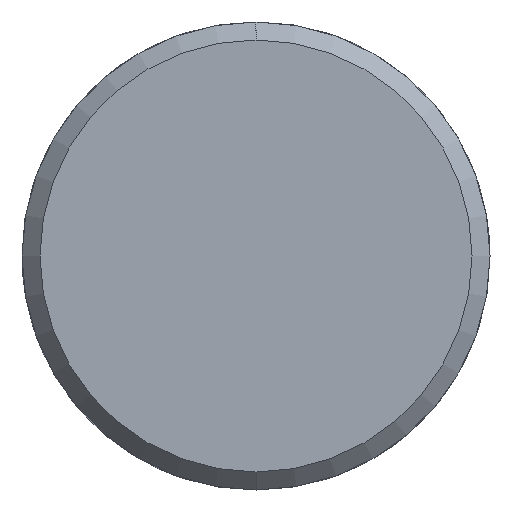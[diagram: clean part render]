
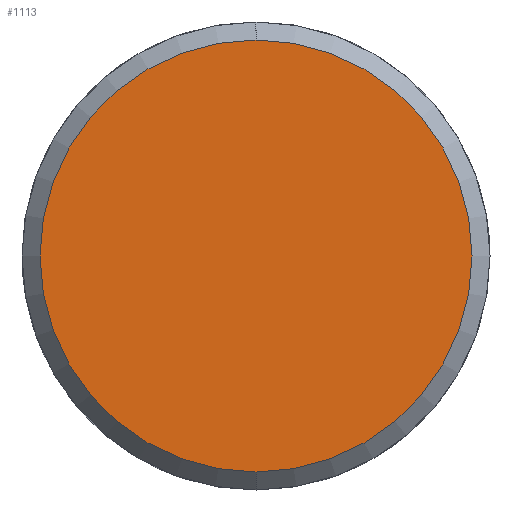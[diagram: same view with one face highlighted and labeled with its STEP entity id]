
A CAD part, left-side view. The second image highlights one B-rep face of the part: STEP entity #1113.
In plain terms, the highlighted planar face has unit normal (-1, 0, 0).
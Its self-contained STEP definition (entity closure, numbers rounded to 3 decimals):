
#1045=CARTESIAN_POINT('Vertex',(-5.,0.,-12.)) ;
#1048=CARTESIAN_POINT('Axis2P3D Location',(-5.,0.,0.)) ;
#1052=CARTESIAN_POINT('Vertex',(-5.,12.,0.)) ;
#1055=CARTESIAN_POINT('Axis2P3D Location',(-5.,0.,0.)) ;
#1059=CARTESIAN_POINT('Vertex',(-5.,0.,12.)) ;
#1081=CARTESIAN_POINT('Axis2P3D Location',(-5.,0.,0.)) ;
#1085=CARTESIAN_POINT('Vertex',(-5.,-12.,0.)) ;
#1088=CARTESIAN_POINT('Axis2P3D Location',(-5.,0.,0.)) ;
#1102=CARTESIAN_POINT('Axis2P3D Location',(-5.,0.,0.)) ;
#1049=DIRECTION('Axis2P3D Direction',(1.,0.,-0.)) ;
#1056=DIRECTION('Axis2P3D Direction',(1.,0.,-0.)) ;
#1082=DIRECTION('Axis2P3D Direction',(1.,0.,-0.)) ;
#1089=DIRECTION('Axis2P3D Direction',(1.,0.,-0.)) ;
#1103=DIRECTION('Axis2P3D Direction',(1.,0.,-0.)) ;
#1104=DIRECTION('Axis2P3D XDirection',(-0.,0.,-1.)) ;
#1050=AXIS2_PLACEMENT_3D('Circle Axis2P3D',#1048,#1049,$) ;
#1057=AXIS2_PLACEMENT_3D('Circle Axis2P3D',#1055,#1056,$) ;
#1083=AXIS2_PLACEMENT_3D('Circle Axis2P3D',#1081,#1082,$) ;
#1090=AXIS2_PLACEMENT_3D('Circle Axis2P3D',#1088,#1089,$) ;
#1105=AXIS2_PLACEMENT_3D('Plane Axis2P3D',#1102,#1103,#1104) ;
#1108=ORIENTED_EDGE('',*,*,#1054,.F.) ;
#1109=ORIENTED_EDGE('',*,*,#1092,.F.) ;
#1110=ORIENTED_EDGE('',*,*,#1087,.F.) ;
#1111=ORIENTED_EDGE('',*,*,#1061,.F.) ;
#1113=ADVANCED_FACE('351-16X76X120',(#1112),#1106,.F.) ;
#1051=CIRCLE('generated circle',#1050,12.) ;
#1058=CIRCLE('generated circle',#1057,12.) ;
#1084=CIRCLE('generated circle',#1083,12.) ;
#1091=CIRCLE('generated circle',#1090,12.) ;
#1054=EDGE_CURVE('',#1046,#1053,#1051,.T.) ;
#1061=EDGE_CURVE('',#1053,#1060,#1058,.T.) ;
#1087=EDGE_CURVE('',#1060,#1086,#1084,.T.) ;
#1092=EDGE_CURVE('',#1086,#1046,#1091,.T.) ;
#1107=EDGE_LOOP('',(#1108,#1109,#1110,#1111)) ;
#1112=FACE_OUTER_BOUND('',#1107,.T.) ;
#1106=PLANE('Plane',#1105) ;
#1046=VERTEX_POINT('',#1045) ;
#1053=VERTEX_POINT('',#1052) ;
#1060=VERTEX_POINT('',#1059) ;
#1086=VERTEX_POINT('',#1085) ;
